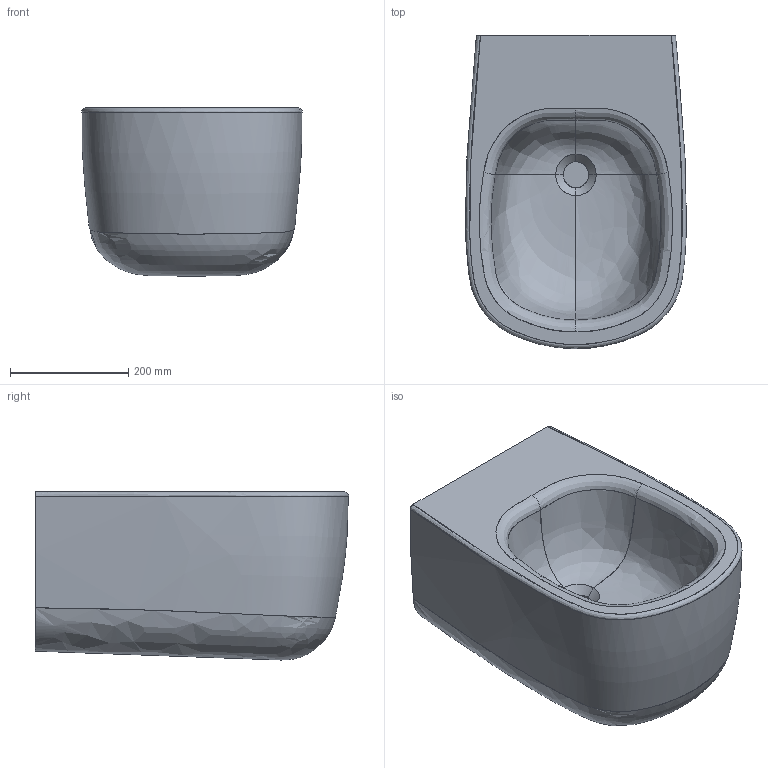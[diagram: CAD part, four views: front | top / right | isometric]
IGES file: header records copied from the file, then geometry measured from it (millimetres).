
Start section: START RECORD GO HERE.
Global section: file name: C:\Users\DE NITTO FULVIO\Desktop\Nic\2017\Maggio\Collezione Ovvio\Ovvio Bidet Sospeso\Modello 3D\Ovvio Bidet Sospeso.igs; native system: Rhinoceros ( Oct 24 2012 ); preprocessor: Trout Lake IGES 012 Oct 24 2012; date: 170503.075239; units: millimetre
Bounding box: 372.88 x 529.94 x 284.24 mm (x, y, z)
Surface area: 841695.4 mm2 (no closed solid volume)
Topology: 0 solids, 0 shells, 21 faces, 791 edges, 791 vertices
Faces by surface type: bspline 21
